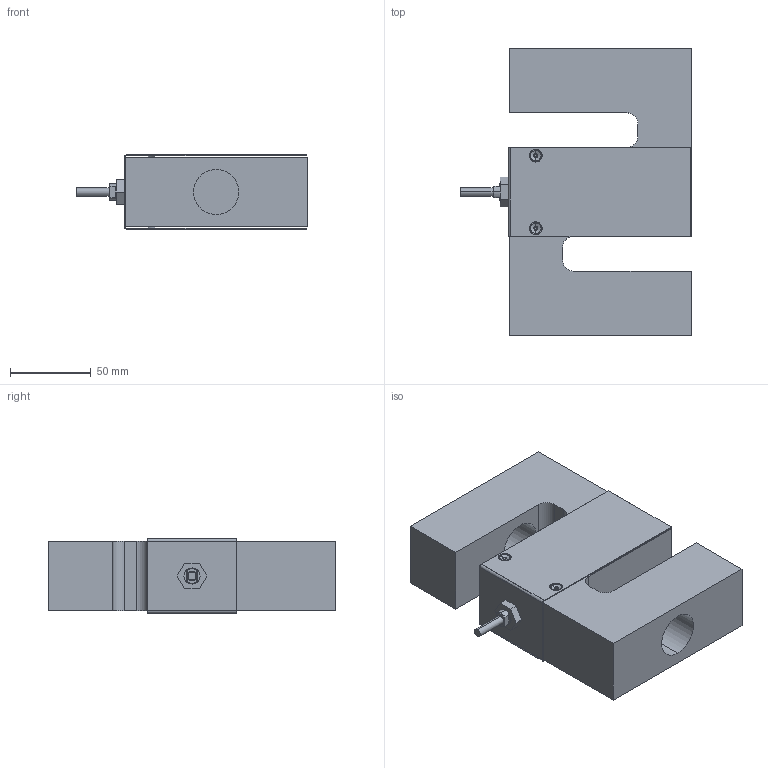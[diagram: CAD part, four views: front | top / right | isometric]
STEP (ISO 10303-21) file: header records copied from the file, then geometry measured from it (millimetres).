
FILE_DESCRIPTION (( 'STEP AP214' ), '1' );
FILE_NAME ('B3G-10t assy.STEP', '2012-01-27T10:55:20', ( 'Gebruiker' ), ( 'Microsoft' ), 'SwSTEP 2.0', 'SolidWorks 2011', '' );
FILE_SCHEMA (( 'AUTOMOTIVE_DESIGN' ));
Length unit declared in the file: millimetre
Products named in the file (9): hex thin nut gradeb_iso_Hexagon Nut ISO - 4036 - M10 - S; B3G conduit adaptor; B3G cable; B3G-7.5t gage potting; B3G-10t cover; Cover part indrukking; Cover 10t; B3G-10t element; B3G-10t assy
Assembly tree (12 placements, depth 3):
  B3G-10t assy
    B3G-7.5t gage potting  x2
    B3G-10t cover
      Cover 10t
      Cover part indrukking  x4
    B3G conduit adaptor
    B3G cable
    hex thin nut gradeb_iso_Hexagon Nut ISO - 4036 - M10 - S
    B3G-10t element
Bounding box: 142.8 x 178 x 46 mm (x, y, z)
Volume: 677677.1 mm3; surface area: 119357.5 mm2
Topology: 11 solids, 11 shells, 203 faces, 438 edges, 267 vertices
Faces by surface type: plane 66, cylinder 58, cone 47, torus 32
Entity records: 4585 total; most frequent: DIRECTION 801, CARTESIAN_POINT 706, ORIENTED_EDGE 660, EDGE_CURVE 330, AXIS2_PLACEMENT_3D 314, VERTEX_POINT 203, LINE 173, VECTOR 173
